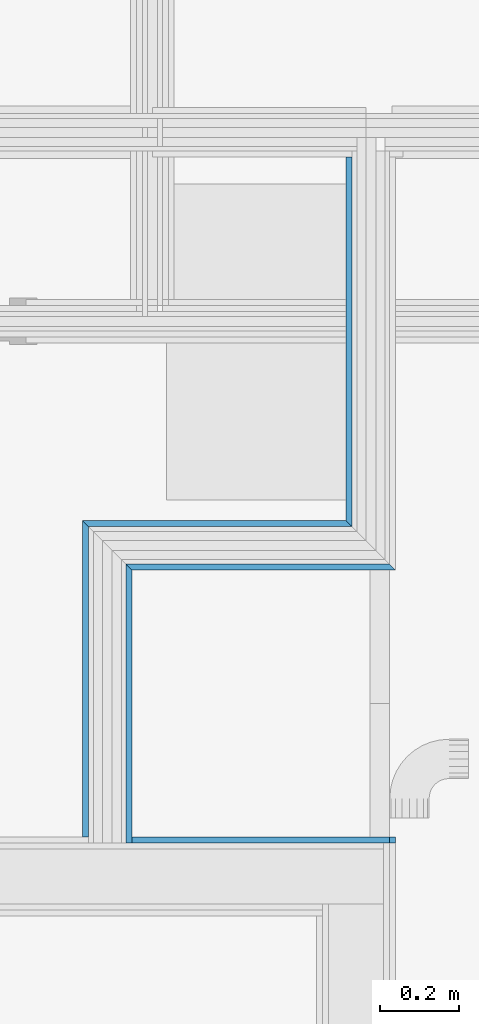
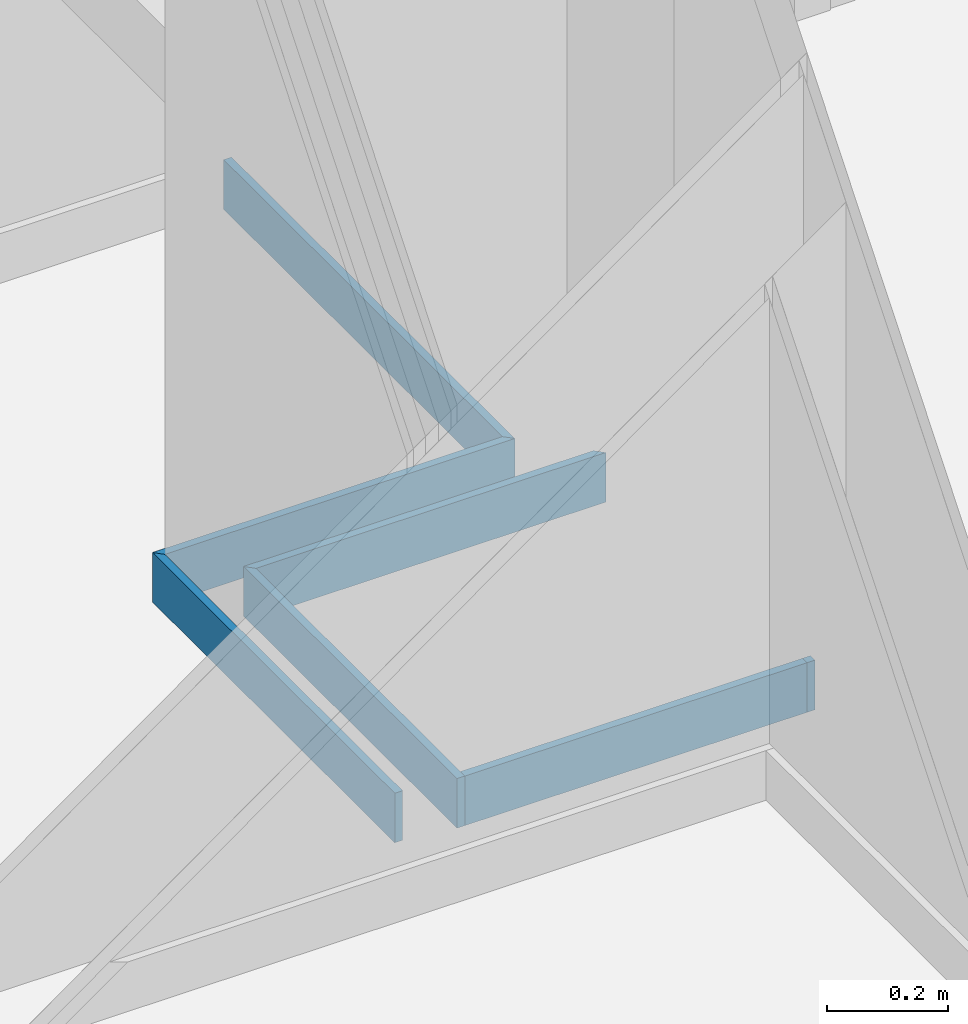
# One storey, part 65 of 169: 7 building element parts, 4 elements without a shape of their own.
"""IFC2X3 building model written with IfcOpenShell, lengths in metres."""

from ifc_helpers import new_model, entity, si_unit, converted_unit, derived_unit, money_unit, direction, frame, frame_2d, origin_with_axes, place, context, subcontext, project, spatial, polyline, rectangle, outline, extrude, material, type_object, element, aggregate, save


model = new_model("IFC2X3")

# Units and contexts
model_context = context("Model", 3, precision=1e-05, world=origin_with_axes(), true_north=direction((0.0, 1.0)))
body_context = subcontext(model_context, "Body", "Model", "MODEL_VIEW", scale=1.0)
ifc_project = project(units=[si_unit("LENGTHUNIT", "METRE"), si_unit("AREAUNIT", "SQUARE_METRE"), si_unit("VOLUMEUNIT", "CUBIC_METRE"), si_unit("ABSORBEDDOSEUNIT", "GRAY"), si_unit("AMOUNTOFSUBSTANCEUNIT", "MOLE"), si_unit("DOSEEQUIVALENTUNIT", "SIEVERT"), si_unit("ELECTRICCAPACITANCEUNIT", "FARAD"), si_unit("ELECTRICCHARGEUNIT", "COULOMB"), si_unit("ELECTRICCONDUCTANCEUNIT", "SIEMENS"), si_unit("ELECTRICCURRENTUNIT", "AMPERE"), si_unit("ELECTRICRESISTANCEUNIT", "OHM"), si_unit("ELECTRICVOLTAGEUNIT", "VOLT"), si_unit("ENERGYUNIT", "JOULE"), si_unit("FORCEUNIT", "NEWTON"), si_unit("FREQUENCYUNIT", "HERTZ"), si_unit("ILLUMINANCEUNIT", "LUX"), si_unit("INDUCTANCEUNIT", "HENRY"), si_unit("LUMINOUSFLUXUNIT", "LUMEN"), si_unit("LUMINOUSINTENSITYUNIT", "CANDELA"), si_unit("MAGNETICFLUXDENSITYUNIT", "TESLA"), si_unit("MAGNETICFLUXUNIT", "WEBER"), si_unit("MASSUNIT", "GRAM"), converted_unit("PLANEANGLEUNIT", "degree", entity("IfcReal", 0.0174532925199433), si_unit("PLANEANGLEUNIT", "RADIAN"), dimensions=[0, 0, 0, 0, 0, 0, 0]), si_unit("POWERUNIT", "WATT"), si_unit("PRESSUREUNIT", "PASCAL"), si_unit("RADIOACTIVITYUNIT", "BECQUEREL"), si_unit("SOLIDANGLEUNIT", "STERADIAN"), si_unit("THERMODYNAMICTEMPERATUREUNIT", "KELVIN"), si_unit("TIMEUNIT", "SECOND"), derived_unit("ACCELERATIONUNIT", [(si_unit("LENGTHUNIT", "METRE"), 1), (si_unit("TIMEUNIT", "SECOND"), -2)]), derived_unit("ANGULARVELOCITYUNIT", [(converted_unit("PLANEANGLEUNIT", "degree", entity("IfcReal", 0.0174532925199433), si_unit("PLANEANGLEUNIT", "RADIAN"), dimensions=[0, 0, 0, 0, 0, 0, 0]), 1), (si_unit("TIMEUNIT", "SECOND"), -1)]), derived_unit("CURVATUREUNIT", [(converted_unit("PLANEANGLEUNIT", "degree", entity("IfcReal", 0.0174532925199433), si_unit("PLANEANGLEUNIT", "RADIAN"), dimensions=[0, 0, 0, 0, 0, 0, 0]), 1), (si_unit("LENGTHUNIT", "METRE"), -1)]), derived_unit("DYNAMICVISCOSITYUNIT", [(si_unit("PRESSUREUNIT", "PASCAL"), 1), (si_unit("TIMEUNIT", "SECOND"), 1)]), derived_unit("HEATFLUXDENSITYUNIT", [(si_unit("POWERUNIT", "WATT"), 1), (si_unit("LENGTHUNIT", "METRE"), -2)]), derived_unit("HEATINGVALUEUNIT", [(si_unit("ENERGYUNIT", "JOULE"), 1), (si_unit("MASSUNIT", "GRAM"), -1)]), derived_unit("INTEGERCOUNTRATEUNIT", [(si_unit("TIMEUNIT", "SECOND"), -1)]), derived_unit("IONCONCENTRATIONUNIT", [(si_unit("MASSUNIT", "GRAM"), 1), (si_unit("VOLUMEUNIT", "CUBIC_METRE"), -1)]), derived_unit("ISOTHERMALMOISTURECAPACITYUNIT", [(si_unit("VOLUMEUNIT", "CUBIC_METRE"), 1), (si_unit("MASSUNIT", "GRAM"), -1)]), derived_unit("KINEMATICVISCOSITYUNIT", [(si_unit("AREAUNIT", "SQUARE_METRE"), 1), (si_unit("TIMEUNIT", "SECOND"), -1)]), derived_unit("LINEARFORCEUNIT", [(si_unit("FORCEUNIT", "NEWTON"), 1), (si_unit("LENGTHUNIT", "METRE"), -1)]), derived_unit("LINEARMOMENTUNIT", [(si_unit("FORCEUNIT", "NEWTON"), 1), (si_unit("LENGTHUNIT", "METRE"), -1)]), derived_unit("LINEARSTIFFNESSUNIT", [(si_unit("FORCEUNIT", "NEWTON"), 1), (si_unit("LENGTHUNIT", "METRE"), -1)]), derived_unit("LINEARVELOCITYUNIT", [(si_unit("LENGTHUNIT", "METRE"), 1), (si_unit("TIMEUNIT", "SECOND"), -1)]), derived_unit("LUMINOUSINTENSITYDISTRIBUTIONUNIT", [(si_unit("LUMINOUSINTENSITYUNIT", "CANDELA"), 1), (si_unit("LUMINOUSFLUXUNIT", "LUMEN"), -1)]), derived_unit("MASSDENSITYUNIT", [(si_unit("MASSUNIT", "GRAM"), 1), (si_unit("VOLUMEUNIT", "CUBIC_METRE"), -1)]), derived_unit("MASSFLOWRATEUNIT", [(si_unit("MASSUNIT", "GRAM"), 1), (si_unit("TIMEUNIT", "SECOND"), -1)]), derived_unit("MASSPERLENGTHUNIT", [(si_unit("MASSUNIT", "GRAM"), 1), (si_unit("LENGTHUNIT", "METRE"), -1)]), derived_unit("MODULUSOFELASTICITYUNIT", [(si_unit("FORCEUNIT", "NEWTON"), 1), (si_unit("AREAUNIT", "SQUARE_METRE"), -1)]), derived_unit("MODULUSOFLINEARSUBGRADEREACTIONUNIT", [(si_unit("FORCEUNIT", "NEWTON"), 1), (si_unit("LENGTHUNIT", "METRE"), -2)]), derived_unit("MODULUSOFROTATIONALSUBGRADEREACTIONUNIT", [(si_unit("FORCEUNIT", "NEWTON"), 1), (si_unit("LENGTHUNIT", "METRE"), 1)]), derived_unit("MODULUSOFSUBGRADEREACTIONUNIT", [(si_unit("FORCEUNIT", "NEWTON"), 1), (si_unit("VOLUMEUNIT", "CUBIC_METRE"), -1)]), derived_unit("MOISTUREDIFFUSIVITYUNIT", [(si_unit("VOLUMEUNIT", "CUBIC_METRE"), 1), (si_unit("TIMEUNIT", "SECOND"), -1)]), derived_unit("MOLECULARWEIGHTUNIT", [(si_unit("MASSUNIT", "GRAM"), 1), (si_unit("AMOUNTOFSUBSTANCEUNIT", "MOLE"), -1)]), derived_unit("PLANARFORCEUNIT", [(si_unit("FORCEUNIT", "NEWTON"), 1), (si_unit("LENGTHUNIT", "METRE"), -2)]), derived_unit("ROTATIONALFREQUENCYUNIT", [(si_unit("TIMEUNIT", "SECOND"), -1)]), derived_unit("ROTATIONALMASSUNIT", [(si_unit("MASSUNIT", "GRAM"), 1), (si_unit("LENGTHUNIT", "METRE"), 2)]), derived_unit("ROTATIONALSTIFFNESSUNIT", [(si_unit("FORCEUNIT", "NEWTON"), 1), (si_unit("LENGTHUNIT", "METRE"), 1), (converted_unit("PLANEANGLEUNIT", "degree", entity("IfcReal", 0.0174532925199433), si_unit("PLANEANGLEUNIT", "RADIAN"), dimensions=[0, 0, 0, 0, 0, 0, 0]), -1)]), derived_unit("SECTIONAREAINTEGRALUNIT", [(si_unit("LENGTHUNIT", "METRE"), 5)]), derived_unit("SECTIONMODULUSUNIT", [(si_unit("LENGTHUNIT", "METRE"), 3)]), derived_unit("SHEARMODULUSUNIT", [(si_unit("FORCEUNIT", "NEWTON"), 1), (si_unit("AREAUNIT", "SQUARE_METRE"), -1)]), derived_unit("SOUNDPOWERUNIT", [(si_unit("ENERGYUNIT", "JOULE"), 1), (si_unit("TIMEUNIT", "SECOND"), -1)]), derived_unit("SPECIFICHEATCAPACITYUNIT", [(si_unit("FORCEUNIT", "NEWTON"), 1), (si_unit("MASSUNIT", "GRAM"), -1), (si_unit("THERMODYNAMICTEMPERATUREUNIT", "KELVIN"), -1)]), derived_unit("TEMPERATUREGRADIENTUNIT", [(si_unit("THERMODYNAMICTEMPERATUREUNIT", "KELVIN"), 1), (si_unit("LENGTHUNIT", "METRE"), -1)]), derived_unit("THERMALADMITTANCEUNIT", [(si_unit("POWERUNIT", "WATT"), 1), (si_unit("AREAUNIT", "SQUARE_METRE"), -1), (si_unit("THERMODYNAMICTEMPERATUREUNIT", "KELVIN"), -1)]), derived_unit("THERMALCONDUCTANCEUNIT", [(si_unit("POWERUNIT", "WATT"), 1), (si_unit("LENGTHUNIT", "METRE"), -1), (si_unit("THERMODYNAMICTEMPERATUREUNIT", "KELVIN"), -1)]), derived_unit("THERMALEXPANSIONCOEFFICIENTUNIT", [(si_unit("THERMODYNAMICTEMPERATUREUNIT", "KELVIN"), -1)]), derived_unit("THERMALRESISTANCEUNIT", [(si_unit("AREAUNIT", "SQUARE_METRE"), 1), (si_unit("POWERUNIT", "WATT"), -1)]), derived_unit("THERMALTRANSMITTANCEUNIT", [(si_unit("POWERUNIT", "WATT"), 1), (si_unit("AREAUNIT", "SQUARE_METRE"), -1), (si_unit("THERMODYNAMICTEMPERATUREUNIT", "KELVIN"), -1)]), derived_unit("TORQUEUNIT", [(si_unit("FORCEUNIT", "NEWTON"), 1), (si_unit("LENGTHUNIT", "METRE"), 1)]), derived_unit("VAPORPERMEABILITYUNIT", [(si_unit("MASSUNIT", "GRAM"), 1), (si_unit("TIMEUNIT", "SECOND"), -1)]), derived_unit("VOLUMETRICFLOWRATEUNIT", [(si_unit("VOLUMEUNIT", "CUBIC_METRE"), 1), (si_unit("TIMEUNIT", "SECOND"), -1)]), derived_unit("WARPINGCONSTANTUNIT", [(si_unit("LENGTHUNIT", "METRE"), 6)]), derived_unit("WARPINGMOMENTUNIT", [(si_unit("FORCEUNIT", "NEWTON"), 1), (si_unit("LENGTHUNIT", "METRE"), 2)]), money_unit("GBP")], contexts=[model_context])

# Site, building, storey
site_placement = place(None, origin_with_axes())
site = spatial("IfcSite", under=ifc_project, at=site_placement, Name="Site", CompositionType="ELEMENT")
building_placement = place(site_placement, origin_with_axes())
building = spatial("IfcBuilding", under=site, at=building_placement, Name="Building01", CompositionType="ELEMENT")
storey_placement = place(building_placement, frame((0.0, 0.0, 5.15), z_axis=(0.0, 0.0, 1.0), x_axis=(1.0, 0.0, 0.0)))
storey = spatial("IfcBuildingStorey", under=building, at=storey_placement, Name="1F", CompositionType="ELEMENT", Elevation=5.15)

# Wall, building element parts
wall_type_1 = type_object("IfcWallType", Name="SHE_A-Walls_Type05a_Partition_95mm_tall", PredefinedType="NOTDEFINED")
wall_1_placement = place(storey_placement, frame((17.273132, 8.82, 0.0), z_axis=(0.0, 0.0, 1.0), x_axis=(0.0, 1.0, 0.0)))
wall_1 = element("IfcWall", 1, at=wall_1_placement, inside=storey, type_object=wall_type_1, Name="5A", ObjectType="SHE_A-Walls_Type05a_Partition_95mm_tall")
ifc_material = material(Name="A_BSUK_Walls_Timber")
placement_1 = place(wall_1_placement, origin_with_axes())
building_element_part_1 = element("IfcBuildingElementPart", 2, at=placement_1, material=ifc_material, Name="1", context=body_context, shape_type="SweptSolid", body=[
    extrude(outline(polyline([(0.705, -0.06), (0.0, -0.06), (0.0, -0.075), (0.69, -0.075), (0.705, -0.06)])), frame((0.0, 0.0, 0.015), z_axis=(0.0, 0.0, 1.0), x_axis=(1.0, 0.0, 0.0)), (0.0, 0.0, 1.0), 0.1),
])
building_element_part_2 = element("IfcBuildingElementPart", 3, at=placement_1, material=ifc_material, Name="7", context=body_context, shape_type="SweptSolid", body=[
    extrude(outline(polyline([(0.815, 0.05), (0.015, 0.05), (0.015, 0.035), (0.8, 0.035), (0.815, 0.05)])), frame((0.0, 0.0, 0.015), z_axis=(0.0, 0.0, 1.0), x_axis=(1.0, 0.0, 0.0)), (0.0, 0.0, 1.0), 0.1),
])
aggregate(wall_1, [building_element_part_1, building_element_part_2])

wall_2_placement = place(storey_placement, frame((17.273132, 9.585, 0.0), z_axis=(0.0, 0.0, 1.0), x_axis=(1.0, 0.0, 0.0)))
wall_2 = element("IfcWall", 4, at=wall_2_placement, inside=storey, type_object=wall_type_1, Name="5A", ObjectType="SHE_A-Walls_Type05a_Partition_95mm_tall")
placement_2 = place(wall_2_placement, origin_with_axes())
building_element_part_3 = element("IfcBuildingElementPart", 5, at=placement_2, material=ifc_material, Name="1", context=body_context, shape_type="SweptSolid", body=[
    extrude(outline(polyline([(0.726868, -0.06), (0.06, -0.06), (0.075, -0.075), (0.741868, -0.075), (0.726868, -0.06)])), frame((0.0, 0.0, 0.015), z_axis=(0.0, 0.0, 1.0), x_axis=(1.0, 0.0, 0.0)), (0.0, 0.0, 1.0), 0.1),
])
building_element_part_4 = element("IfcBuildingElementPart", 6, at=placement_2, material=ifc_material, Name="7", context=body_context, shape_type="SweptSolid", body=[
    extrude(outline(polyline([(0.616868, 0.05), (-0.05, 0.05), (-0.035, 0.035), (0.631868, 0.035), (0.616868, 0.05)])), frame((0.0, 0.0, 0.015), z_axis=(0.0, 0.0, 1.0), x_axis=(1.0, 0.0, 0.0)), (0.0, 0.0, 1.0), 0.1),
])
aggregate(wall_2, [building_element_part_3, building_element_part_4])

# Wall, building element part
wall_3_placement = place(storey_placement, frame((17.94, 9.585, 0.0), z_axis=(0.0, 0.0, 1.0), x_axis=(0.0, 1.0, 0.0)))
wall_3 = element("IfcWall", 7, at=wall_3_placement, inside=storey, type_object=wall_type_1, Name="5A", ObjectType="SHE_A-Walls_Type05a_Partition_95mm_tall")
building_element_part_5_placement = place(wall_3_placement, origin_with_axes())
building_element_part_5 = element("IfcBuildingElementPart", 8, at=building_element_part_5_placement, material=ifc_material, Name="7", context=body_context, shape_type="SweptSolid", body=[
    extrude(outline(polyline([(0.97, 0.05), (0.05, 0.05), (0.035, 0.035), (0.97, 0.035), (0.97, 0.05)])), frame((0.0, 0.0, 0.015), z_axis=(0.0, 0.0, 1.0), x_axis=(1.0, 0.0, 0.0)), (0.0, 0.0, 1.0), 0.1),
])
aggregate(wall_3, [building_element_part_5])

# Wall, building element parts
wall_type_2 = type_object("IfcWallType", Name="SHE_A-Walls_Type03a_BlockworkWall_170mm", PredefinedType="NOTDEFINED")
wall_4_placement = place(storey_placement, frame((17.985, 8.805, 0.0), z_axis=(0.0, 0.0, 1.0), x_axis=(-1.0, 0.0, 0.0)))
wall_4 = element("IfcWall", 9, at=wall_4_placement, inside=storey, type_object=wall_type_2, Name="4B", ObjectType="SHE_A-Walls_Type03a_BlockworkWall_170mm")
placement_3 = place(wall_4_placement, origin_with_axes())
building_element_part_6 = element("IfcBuildingElementPart", 10, at=placement_3, material=ifc_material, Name="1", context=body_context, shape_type="SweptSolid", body=[
    extrude(rectangle(XDim=0.015, YDim=0.015, at=frame_2d((-0.0225, -0.0225), x_axis=(-1.0, 0.0))), frame((0.0, 0.0, 0.015), z_axis=(0.0, 0.0, 1.0), x_axis=(1.0, 0.0, 0.0)), (0.0, 0.0, 1.0), 0.1),
])
building_element_part_7 = element("IfcBuildingElementPart", 11, at=placement_3, material=ifc_material, Name="3", context=body_context, shape_type="SweptSolid", body=[
    extrude(rectangle(XDim=0.651868, YDim=0.015, at=frame_2d((0.310934, -0.0225), x_axis=(-1.0, 0.0))), frame((0.0, 0.0, 0.015), z_axis=(0.0, 0.0, 1.0), x_axis=(1.0, 0.0, 0.0)), (0.0, 0.0, 1.0), 0.1),
])
aggregate(wall_4, [building_element_part_6, building_element_part_7])

save(model, "model.ifc")
